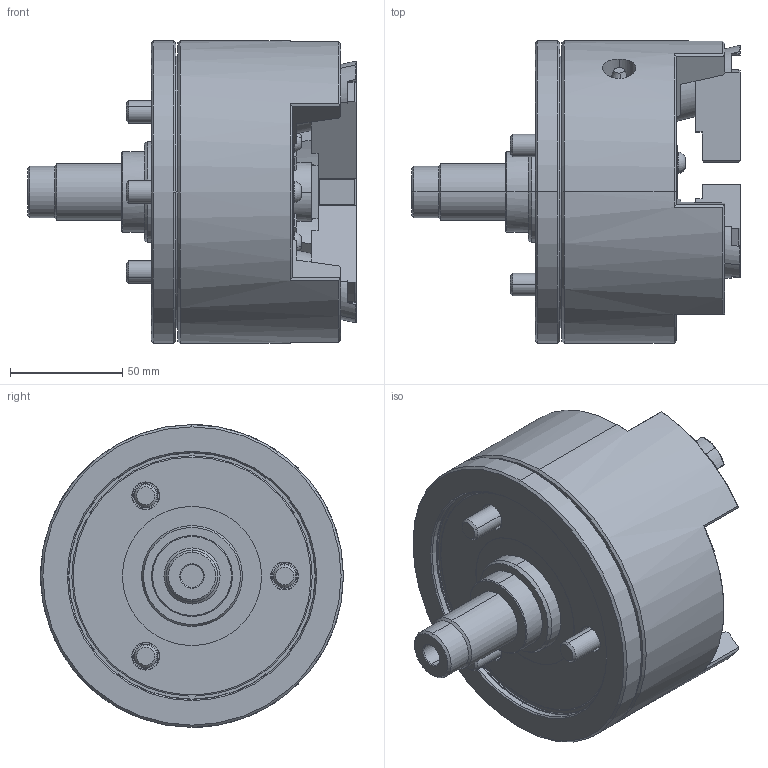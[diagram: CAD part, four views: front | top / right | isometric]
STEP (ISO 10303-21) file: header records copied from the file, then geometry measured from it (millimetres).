
FILE_DESCRIPTION (( 'STEP AP214' ), '1' );
FILE_NAME ('PU205_UC.STEP', '2019-10-18T08:05:02', ( '' ), ( '' ), 'SwSTEP 2.0', 'SolidWorks 2017', '' );
FILE_SCHEMA (( 'AUTOMOTIVE_DESIGN' ));
Length unit declared in the file: millimetre
Products named in the file (4): 結合; 0030108020; 61P340355; PU205_UC
Assembly tree (7 placements, depth 2):
  PU205_UC
    61P340355  x3
    0030108020  x3
    結合
Bounding box: 146.5 x 135 x 135 mm (x, y, z)
Volume: 983418.8 mm3; surface area: 119289.4 mm2
Topology: 7 solids, 7 shells, 952 faces, 2387 edges, 1504 vertices
Faces by surface type: plane 474, cone 178, cylinder 140, bspline 129, torus 31
Entity records: 30483 total; most frequent: CARTESIAN_POINT 10952, ORIENTED_EDGE 4266, DIRECTION 3598, EDGE_CURVE 2133, VERTEX_POINT 1362, AXIS2_PLACEMENT_3D 1209, LINE 1180, VECTOR 1180
